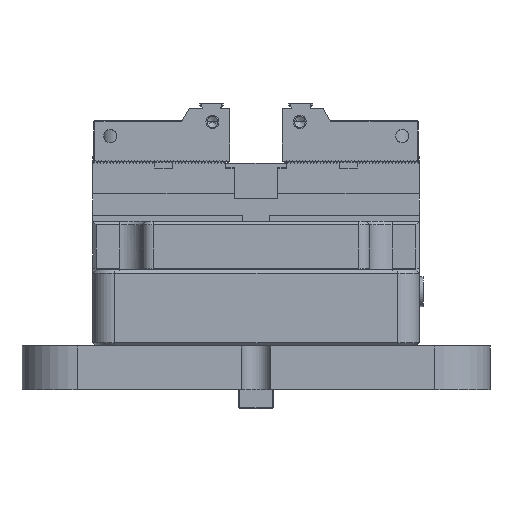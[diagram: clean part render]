
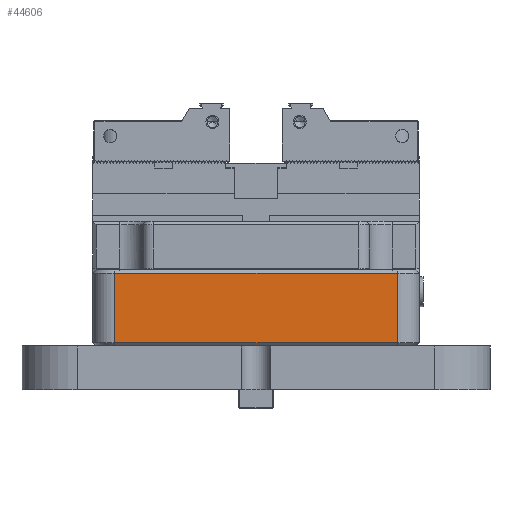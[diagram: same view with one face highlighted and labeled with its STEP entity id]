
A CAD part, left-side view. The second image highlights one B-rep face of the part: STEP entity #44606.
In plain terms, the highlighted planar face has unit normal (-1, 0, 0).
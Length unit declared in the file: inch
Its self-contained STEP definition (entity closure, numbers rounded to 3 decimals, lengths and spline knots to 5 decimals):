
#4029 = EDGE_CURVE ( 'NONE', #17522, #46500, #52766, .T. ) ;
#4786 = VECTOR ( 'NONE', #43478, 39.37008 ) ;
#5454 = VECTOR ( 'NONE', #59829, 39.37008 ) ;
#6989 = CARTESIAN_POINT ( 'NONE',  ( -2.95276, 5.51181, 0.72835 ) ) ;
#9339 = VERTEX_POINT ( 'NONE', #42695 ) ;
#9932 = EDGE_LOOP ( 'NONE', ( #31610, #32370, #37759, #52881 ) ) ;
#16758 = CARTESIAN_POINT ( 'NONE',  ( -2.95276, 0.3937, 0.72835 ) ) ;
#17522 = VERTEX_POINT ( 'NONE', #16758 ) ;
#17680 = EDGE_CURVE ( 'NONE', #61368, #9339, #55995, .T. ) ;
#20851 = DIRECTION ( 'NONE',  ( -1., 0., 0. ) ) ;
#21653 = FACE_OUTER_BOUND ( 'NONE', #9932, .T. ) ;
#25578 = CARTESIAN_POINT ( 'NONE',  ( -2.95276, 5.51181, 0.7874 ) ) ;
#26782 = LINE ( 'NONE', #25578, #69468 ) ;
#31610 = ORIENTED_EDGE ( 'NONE', *, *, #68464, .T. ) ;
#32370 = ORIENTED_EDGE ( 'NONE', *, *, #17680, .T. ) ;
#35161 = CARTESIAN_POINT ( 'NONE',  ( -2.95276, 0.3937, 0.7874 ) ) ;
#35802 = CARTESIAN_POINT ( 'NONE',  ( -2.95276, 5.51181, 0.72835 ) ) ;
#37759 = ORIENTED_EDGE ( 'NONE', *, *, #79836, .F. ) ;
#42416 = LINE ( 'NONE', #35161, #5454 ) ;
#42695 = CARTESIAN_POINT ( 'NONE',  ( -2.95276, 0.3937, -0.52815 ) ) ;
#43478 = DIRECTION ( 'NONE',  ( 0., 1., 0. ) ) ;
#44606 = ADVANCED_FACE ( 'NONE', ( #21653 ), #75509, .T. ) ;
#45264 = CARTESIAN_POINT ( 'NONE',  ( -2.95276, 5.51181, -0.52815 ) ) ;
#46294 = CARTESIAN_POINT ( 'NONE',  ( -2.95276, 5.51181, 0.7874 ) ) ;
#46500 = VERTEX_POINT ( 'NONE', #35802 ) ;
#49904 = CARTESIAN_POINT ( 'NONE',  ( -2.95276, 5.51181, -0.52815 ) ) ;
#51436 = DIRECTION ( 'NONE',  ( 0., 0., -1. ) ) ;
#52766 = LINE ( 'NONE', #6989, #4786 ) ;
#52881 = ORIENTED_EDGE ( 'NONE', *, *, #4029, .T. ) ;
#55995 = LINE ( 'NONE', #49904, #61067 ) ;
#59829 = DIRECTION ( 'NONE',  ( 0., 0., -1. ) ) ;
#61067 = VECTOR ( 'NONE', #74608, 39.37008 ) ;
#61368 = VERTEX_POINT ( 'NONE', #45264 ) ;
#68464 = EDGE_CURVE ( 'NONE', #46500, #61368, #26782, .T. ) ;
#69468 = VECTOR ( 'NONE', #51436, 39.37008 ) ;
#70579 = AXIS2_PLACEMENT_3D ( 'NONE', #46294, #20851, #76299 ) ;
#74608 = DIRECTION ( 'NONE',  ( 0., -1., 0. ) ) ;
#75509 = PLANE ( 'NONE',  #70579 ) ;
#76299 = DIRECTION ( 'NONE',  ( 0., 0., 1. ) ) ;
#79836 = EDGE_CURVE ( 'NONE', #17522, #9339, #42416, .T. ) ;
